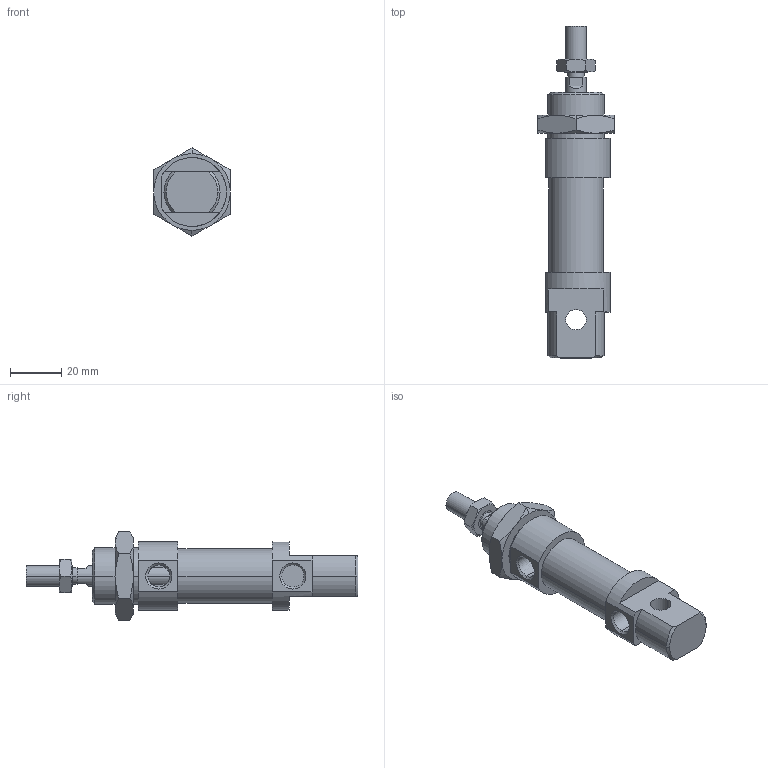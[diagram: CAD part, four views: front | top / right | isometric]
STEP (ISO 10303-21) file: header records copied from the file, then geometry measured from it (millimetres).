
FILE_DESCRIPTION((''),'2;1');
FILE_NAME('I:\DOC-EDP\Lib-3d\1200\CILINDRI\1280\1280_20_0000.stp','2003-04-07T15:48:37',('maffial1'),(''),'Autodesk Inventor (R) 6.0','Autodesk Inventor (R) 6.0','');
FILE_SCHEMA(('AUTOMOTIVE_DESIGN { 1 0 10303 214 1 1 1 1 }'));
Length unit declared in the file: millimetre
Products named in the file (5): 1280_20_0000; S1280_20_0; 1200_20_05; 1200_20_06; C1280_20_0
Assembly tree (4 placements, depth 2):
  1280_20_0000
    S1280_20_0
    1200_20_05
    1200_20_06
    C1280_20_0
Bounding box: 30 x 130 x 34.64 mm (x, y, z)
Volume: 44356.7 mm3; surface area: 14531.5 mm2
Topology: 4 solids, 4 shells, 124 faces, 281 edges, 170 vertices
Faces by surface type: plane 41, cone 40, cylinder 22, bspline 21
Entity records: 3816 total; most frequent: CARTESIAN_POINT 1039, DIRECTION 573, ORIENTED_EDGE 562, EDGE_CURVE 281, AXIS2_PLACEMENT_3D 236, VERTEX_POINT 170, EDGE_LOOP 137, FACE_OUTER_BOUND 124
